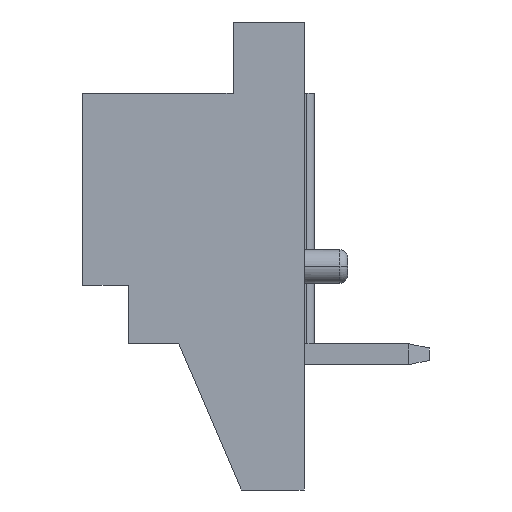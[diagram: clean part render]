
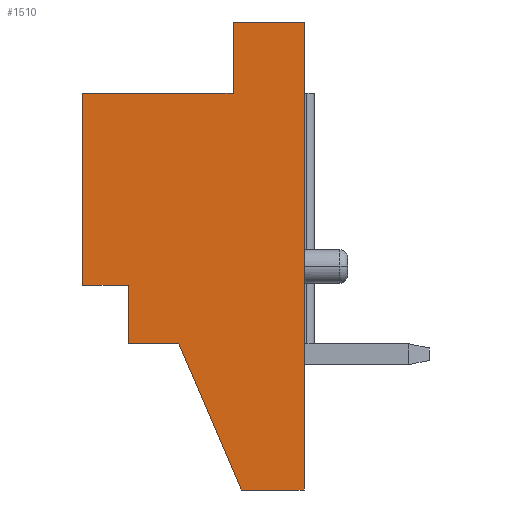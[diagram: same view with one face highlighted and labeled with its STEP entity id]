
A CAD part, left-side view. The second image highlights one B-rep face of the part: STEP entity #1510.
In plain terms, the highlighted planar face has unit normal (-1, 0, 0).
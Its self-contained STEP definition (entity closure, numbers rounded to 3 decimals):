
#166=CARTESIAN_POINT('Vertex',(-14.,0.,7.7)) ;
#169=CARTESIAN_POINT('Line Origine',(-14.,0.,2.1)) ;
#173=CARTESIAN_POINT('Vertex',(-14.,0.,-3.5)) ;
#528=CARTESIAN_POINT('Line Origine',(-14.,0.75,-3.5)) ;
#532=CARTESIAN_POINT('Vertex',(-14.,1.5,-3.5)) ;
#552=CARTESIAN_POINT('Line Origine',(-14.,2.25,-1.75)) ;
#556=CARTESIAN_POINT('Vertex',(-14.,3.,0.)) ;
#576=CARTESIAN_POINT('Line Origine',(-14.,3.6,0.)) ;
#580=CARTESIAN_POINT('Vertex',(-14.,4.2,0.)) ;
#1429=CARTESIAN_POINT('Vertex',(-14.,1.7,7.7)) ;
#1434=CARTESIAN_POINT('Line Origine',(-14.,0.85,7.7)) ;
#1460=CARTESIAN_POINT('Axis2P3D Location',(-14.,0.,0.)) ;
#1465=CARTESIAN_POINT('Line Origine',(-14.,1.7,6.85)) ;
#1469=CARTESIAN_POINT('Vertex',(-14.,1.7,6.)) ;
#1472=CARTESIAN_POINT('Line Origine',(-14.,3.5,6.)) ;
#1476=CARTESIAN_POINT('Vertex',(-14.,5.3,6.)) ;
#1479=CARTESIAN_POINT('Line Origine',(-14.,5.3,3.7)) ;
#1483=CARTESIAN_POINT('Vertex',(-14.,5.3,1.4)) ;
#1486=CARTESIAN_POINT('Line Origine',(-14.,4.75,1.4)) ;
#1490=CARTESIAN_POINT('Vertex',(-14.,4.2,1.4)) ;
#1493=CARTESIAN_POINT('Line Origine',(-14.,4.2,0.7)) ;
#170=DIRECTION('Vector Direction',(0.,0.,-1.)) ;
#529=DIRECTION('Vector Direction',(0.,-1.,0.)) ;
#553=DIRECTION('Vector Direction',(0.,-0.394,-0.919)) ;
#577=DIRECTION('Vector Direction',(0.,1.,0.)) ;
#1435=DIRECTION('Vector Direction',(0.,-1.,0.)) ;
#1461=DIRECTION('Axis2P3D Direction',(1.,0.,0.)) ;
#1462=DIRECTION('Axis2P3D XDirection',(0.,1.,0.)) ;
#1466=DIRECTION('Vector Direction',(0.,0.,1.)) ;
#1473=DIRECTION('Vector Direction',(0.,-1.,0.)) ;
#1480=DIRECTION('Vector Direction',(0.,0.,1.)) ;
#1487=DIRECTION('Vector Direction',(0.,1.,0.)) ;
#1494=DIRECTION('Vector Direction',(0.,0.,1.)) ;
#1463=AXIS2_PLACEMENT_3D('Plane Axis2P3D',#1460,#1461,#1462) ;
#1499=ORIENTED_EDGE('',*,*,#1438,.F.) ;
#1500=ORIENTED_EDGE('',*,*,#1471,.F.) ;
#1501=ORIENTED_EDGE('',*,*,#1478,.F.) ;
#1502=ORIENTED_EDGE('',*,*,#1485,.F.) ;
#1503=ORIENTED_EDGE('',*,*,#1492,.F.) ;
#1504=ORIENTED_EDGE('',*,*,#1497,.F.) ;
#1505=ORIENTED_EDGE('',*,*,#582,.F.) ;
#1506=ORIENTED_EDGE('',*,*,#558,.F.) ;
#1507=ORIENTED_EDGE('',*,*,#534,.F.) ;
#1508=ORIENTED_EDGE('',*,*,#175,.F.) ;
#171=VECTOR('Line Direction',#170,1.) ;
#530=VECTOR('Line Direction',#529,1.) ;
#554=VECTOR('Line Direction',#553,1.) ;
#578=VECTOR('Line Direction',#577,1.) ;
#1436=VECTOR('Line Direction',#1435,1.) ;
#1467=VECTOR('Line Direction',#1466,1.) ;
#1474=VECTOR('Line Direction',#1473,1.) ;
#1481=VECTOR('Line Direction',#1480,1.) ;
#1488=VECTOR('Line Direction',#1487,1.) ;
#1495=VECTOR('Line Direction',#1494,1.) ;
#1510=ADVANCED_FACE('\X2\96F64EF651E04F554F53\X0\',(#1509),#1464,.F.) ;
#175=EDGE_CURVE('',#167,#174,#172,.T.) ;
#534=EDGE_CURVE('',#174,#533,#531,.F.) ;
#558=EDGE_CURVE('',#533,#557,#555,.F.) ;
#582=EDGE_CURVE('',#557,#581,#579,.T.) ;
#1438=EDGE_CURVE('',#1430,#167,#1437,.T.) ;
#1471=EDGE_CURVE('',#1470,#1430,#1468,.T.) ;
#1478=EDGE_CURVE('',#1477,#1470,#1475,.T.) ;
#1485=EDGE_CURVE('',#1484,#1477,#1482,.T.) ;
#1492=EDGE_CURVE('',#1491,#1484,#1489,.T.) ;
#1497=EDGE_CURVE('',#581,#1491,#1496,.T.) ;
#1498=EDGE_LOOP('',(#1499,#1500,#1501,#1502,#1503,#1504,#1505,#1506,#1507,#1508)) ;
#1509=FACE_OUTER_BOUND('',#1498,.T.) ;
#172=LINE('Line',#169,#171) ;
#531=LINE('Line',#528,#530) ;
#555=LINE('Line',#552,#554) ;
#579=LINE('Line',#576,#578) ;
#1437=LINE('Line',#1434,#1436) ;
#1468=LINE('Line',#1465,#1467) ;
#1475=LINE('Line',#1472,#1474) ;
#1482=LINE('Line',#1479,#1481) ;
#1489=LINE('Line',#1486,#1488) ;
#1496=LINE('Line',#1493,#1495) ;
#1464=PLANE('Plane',#1463) ;
#167=VERTEX_POINT('',#166) ;
#174=VERTEX_POINT('',#173) ;
#533=VERTEX_POINT('',#532) ;
#557=VERTEX_POINT('',#556) ;
#581=VERTEX_POINT('',#580) ;
#1430=VERTEX_POINT('',#1429) ;
#1470=VERTEX_POINT('',#1469) ;
#1477=VERTEX_POINT('',#1476) ;
#1484=VERTEX_POINT('',#1483) ;
#1491=VERTEX_POINT('',#1490) ;
